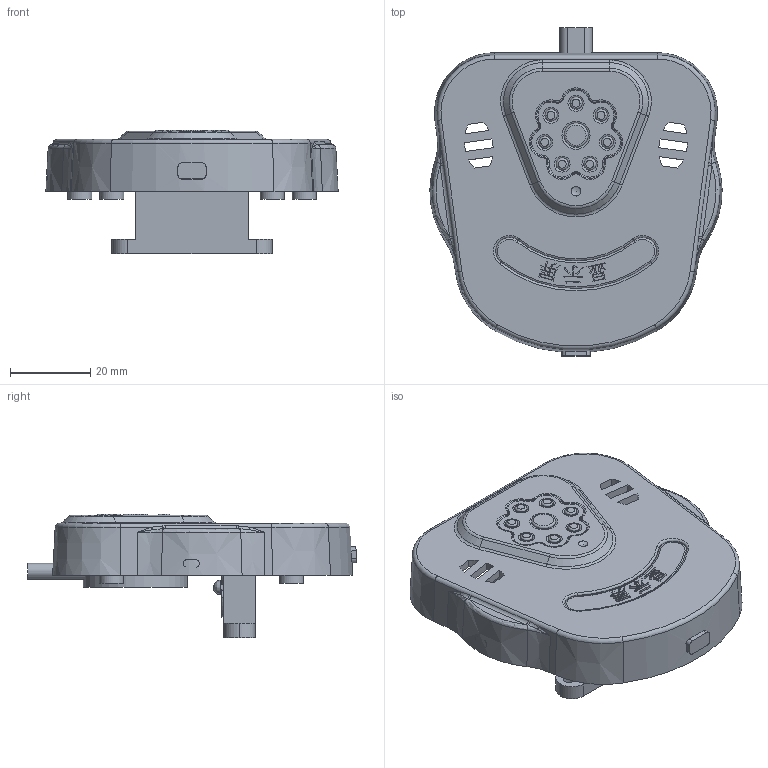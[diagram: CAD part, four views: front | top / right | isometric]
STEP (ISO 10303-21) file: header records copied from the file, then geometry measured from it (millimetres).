
FILE_DESCRIPTION(/* description */ (''),/* implementation_level */ '2;1');
FILE_NAME(/* name */ '7.stp',/* time_stamp */ '2023-04-15T14:53:07+08:00',/* author */ (''),/* organization */ (''),/* preprocessor_version */ 'ST-DEVELOPER v16.7',/* originating_system */ 'SIEMENS PLM Software NX 12.0',/* authorisation */ '');
FILE_SCHEMA (('AUTOMOTIVE_DESIGN { 1 0 10303 214 3 1 1 1 }'));
Length unit declared in the file: millimetre
Products named in the file (1): 7
Bounding box: 72.99 x 82.04 x 30.9 mm (x, y, z)
Volume: 29620 mm3; surface area: 24579.7 mm2
Topology: 7 solids, 7 shells, 573 faces, 1473 edges, 943 vertices
Faces by surface type: plane 251, torus 98, cylinder 93, extrusion 80, cone 32, bspline 18, sphere 1
Full cylindrical faces by diameter (mm): 2.8 x2, 3 x20, 3.3 x2, 6 x6, 22 x1, 26 x1
Entity records: 21539 total; most frequent: CARTESIAN_POINT 5314, ORIENTED_EDGE 2764, DIRECTION 2559, EDGE_CURVE 1382, AXIS2_PLACEMENT_3D 984, VERTEX_POINT 919, EDGE_LOOP 707, VECTOR 591
